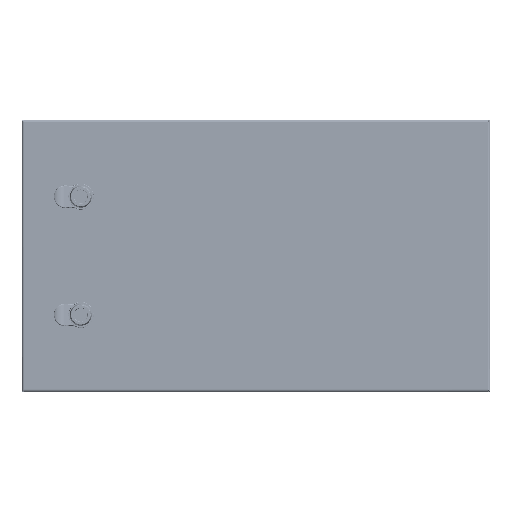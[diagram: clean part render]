
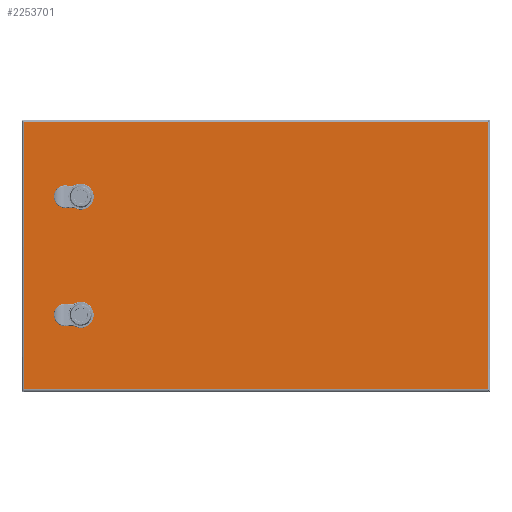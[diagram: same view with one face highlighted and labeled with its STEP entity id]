
A CAD part, top view. The second image highlights one B-rep face of the part: STEP entity #2253701.
In plain terms, the highlighted planar face has unit normal (0, 0, 1).
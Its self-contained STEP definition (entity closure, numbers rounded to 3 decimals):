
#2247951=CARTESIAN_POINT(' ',(289.389,172.733,333.103));
#2247952=VERTEX_POINT(' ',#2247951);
#2248616=CARTESIAN_POINT(' ',(289.389,-166.667,333.103));
#2248617=VERTEX_POINT(' ',#2248616);
#2249461=CARTESIAN_POINT(' ',(289.389,172.733,333.103));
#2249466=DIRECTION(' ',(0.,-1.,0.));
#2249471=VECTOR(' ',#2249466,1.);
#2249476=LINE('',#2249461,#2249471);
#2249481=EDGE_CURVE(' ',#2247952,#2248617,#2249476,.T.);
#2251466=CARTESIAN_POINT(' ',(-299.011,-166.667,333.103));
#2251467=VERTEX_POINT(' ',#2251466);
#2251901=CARTESIAN_POINT(' ',(-299.011,172.733,333.103));
#2251902=VERTEX_POINT(' ',#2251901);
#2253571=DIRECTION(' ',(-0.,-0.,1.));
#2253576=CARTESIAN_POINT(' ',(289.389,-166.667,333.103));
#2253581=DIRECTION(' ',(0.,1.,0.));
#2253586=AXIS2_PLACEMENT_3D(' ',#2253576,#2253571,#2253581);
#2253591=PLANE('NONE',#2253586);
#2253596=CARTESIAN_POINT(' ',(-299.011,-166.667,333.103));
#2253601=DIRECTION(' ',(1.,0.,0.));
#2253606=VECTOR(' ',#2253601,1.);
#2253611=LINE('',#2253596,#2253606);
#2253616=EDGE_CURVE(' ',#2251467,#2248617,#2253611,.T.);
#2253621=ORIENTED_EDGE(' ',*,*,#2253616,.T.);
#2253626=ORIENTED_EDGE(' ',*,*,#2249481,.F.);
#2253631=CARTESIAN_POINT(' ',(289.389,172.733,333.103));
#2253636=DIRECTION(' ',(-1.,0.,0.));
#2253641=VECTOR(' ',#2253636,1.);
#2253646=LINE('',#2253631,#2253641);
#2253651=EDGE_CURVE(' ',#2247952,#2251902,#2253646,.T.);
#2253656=ORIENTED_EDGE(' ',*,*,#2253651,.T.);
#2253661=CARTESIAN_POINT(' ',(-299.011,172.733,333.103));
#2253666=DIRECTION(' ',(0.,-1.,0.));
#2253671=VECTOR(' ',#2253666,1.);
#2253676=LINE('',#2253661,#2253671);
#2253681=EDGE_CURVE(' ',#2251902,#2251467,#2253676,.T.);
#2253686=ORIENTED_EDGE(' ',*,*,#2253681,.T.);
#2253691=EDGE_LOOP(' ',(#2253621,#2253626,#2253656,#2253686));
#2253696=FACE_OUTER_BOUND(' ',#2253691,.T.);
#2253701=ADVANCED_FACE('NONE',(#2253696),#2253591,.T.);
